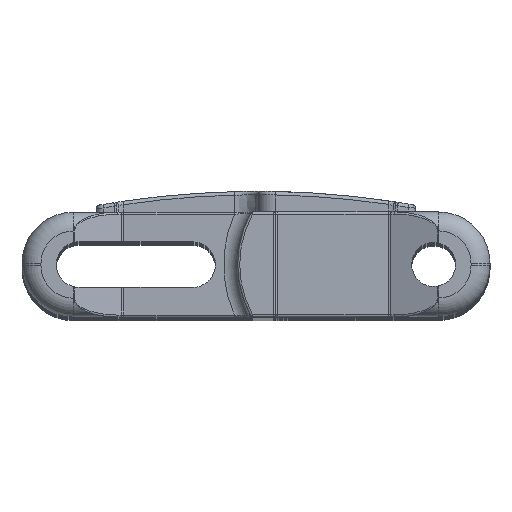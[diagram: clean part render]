
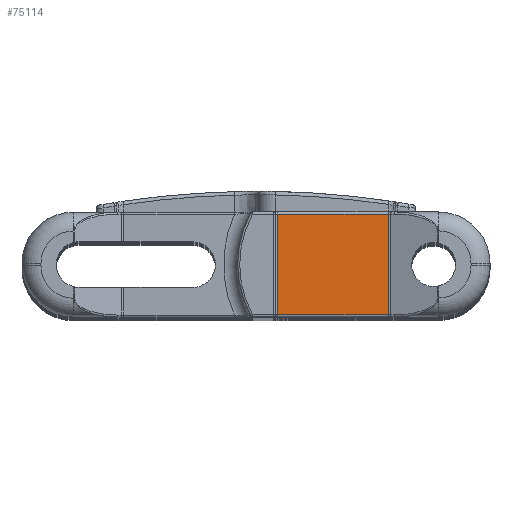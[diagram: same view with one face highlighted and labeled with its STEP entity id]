
A CAD part, top view. The second image highlights one B-rep face of the part: STEP entity #75114.
In plain terms, the highlighted planar face has unit normal (0, 0, 1).
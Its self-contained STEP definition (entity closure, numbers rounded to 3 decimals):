
#18492=DIRECTION('',(0.,-1.,0.));
#18493=VECTOR('',#18492,14.4);
#18494=CARTESIAN_POINT('',(35.568,7.2,-9.2));
#18495=LINE('',#18494,#18493);
#22297=DIRECTION('',(1.,0.,0.));
#22298=VECTOR('',#22297,15.768);
#22299=CARTESIAN_POINT('',(19.8,-7.2,
-9.2));
#22300=LINE('',#22299,#22298);
#23229=DIRECTION('',(-1.,0.,0.));
#23230=VECTOR('',#23229,15.768);
#23231=CARTESIAN_POINT('',(35.568,7.2,-9.2));
#23232=LINE('',#23231,#23230);
#23254=CARTESIAN_POINT('',(19.8,7.2,
-9.2));
#23288=CARTESIAN_POINT('',(19.8,-7.2,
-9.2));
#23360=DIRECTION('',(0.,1.,0.));
#23361=VECTOR('',#23360,14.4);
#23362=CARTESIAN_POINT('',(19.8,-7.2,
-9.2));
#23363=LINE('',#23362,#23361);
#47007=CARTESIAN_POINT('',(35.568,7.2,-9.2));
#47008=CARTESIAN_POINT('',(35.568,-7.2,-9.2));
#47009=VERTEX_POINT('',#47007);
#47010=VERTEX_POINT('',#47008);
#49786=VERTEX_POINT('',#23288);
#49789=VERTEX_POINT('',#23254);
#75103=CARTESIAN_POINT('',(-43.349,-7.5,-9.2));
#75104=DIRECTION('',(0.,0.,1.));
#75105=DIRECTION('',(1.,0.,0.));
#75106=AXIS2_PLACEMENT_3D('',#75103,#75104,#75105);
#75107=PLANE('',#75106);
#75108=ORIENTED_EDGE('',*,*,#75006,.T.);
#75109=ORIENTED_EDGE('',*,*,#74910,.F.);
#75110=ORIENTED_EDGE('',*,*,#69662,.T.);
#75111=ORIENTED_EDGE('',*,*,#73811,.F.);
#75112=EDGE_LOOP('',(#75108,#75109,#75110,#75111));
#75113=FACE_OUTER_BOUND('',#75112,.F.);
#69662=EDGE_CURVE('',#47009,#47010,#18495,.T.);
#73811=EDGE_CURVE('',#49786,#47010,#22300,.T.);
#74910=EDGE_CURVE('',#47009,#49789,#23232,.T.);
#75006=EDGE_CURVE('',#49786,#49789,#23363,.T.);
#75114=ADVANCED_FACE('',(#75113),#75107,.T.);
